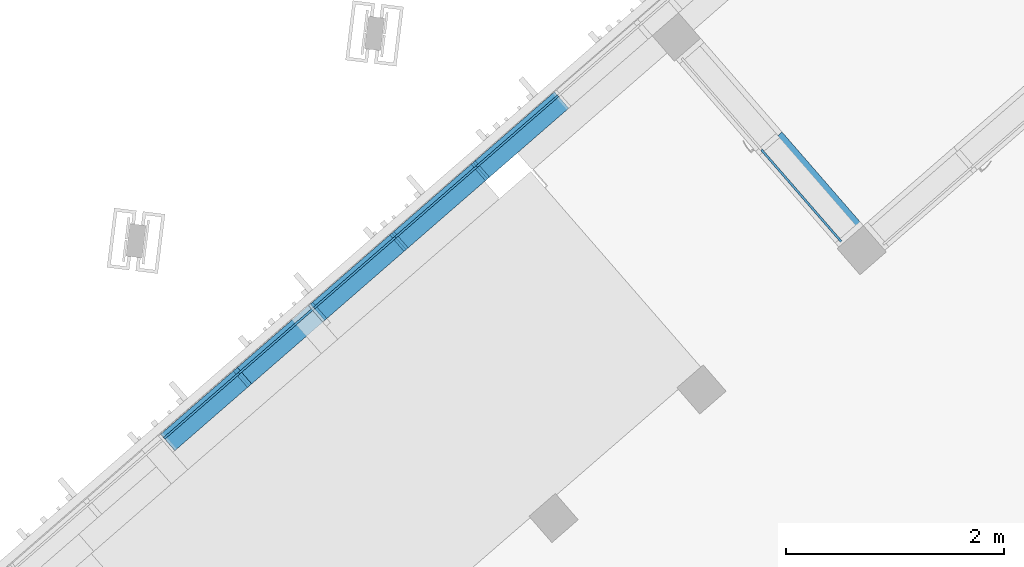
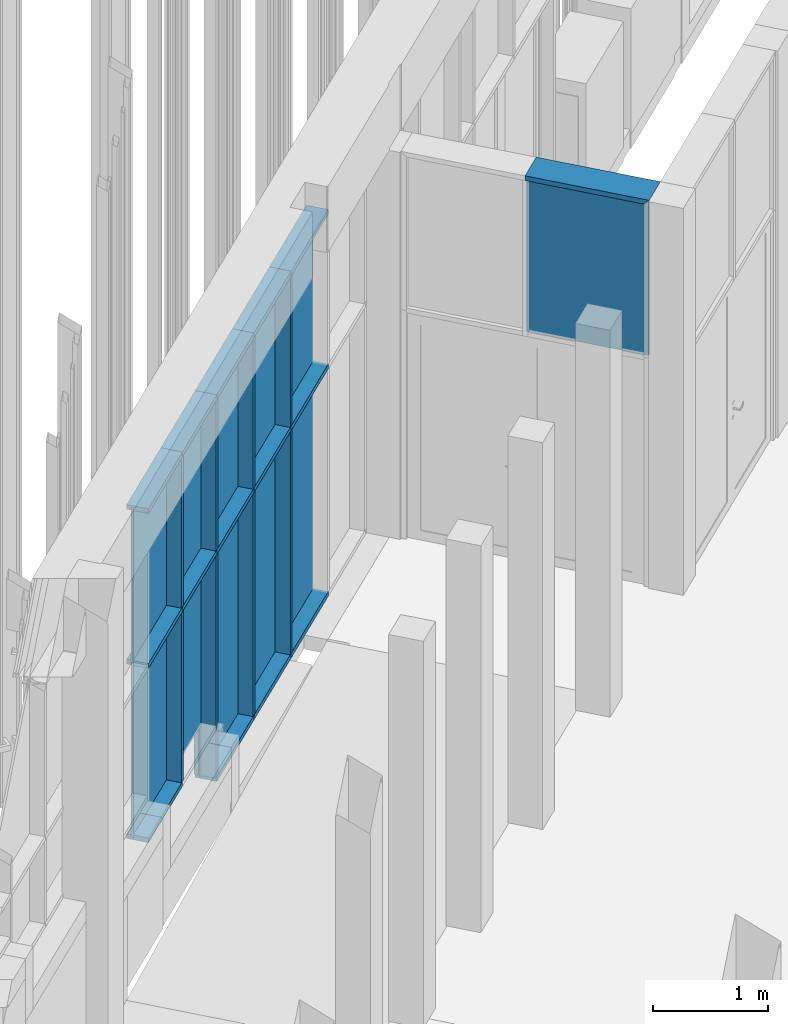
# One storey, part 42 of 390: 34 discrete accessories, 2 elements without a shape of their own.
"""IFC2X3 building model written with IfcOpenShell, lengths in millimetres."""

from ifc_helpers import new_model, entity, si_unit, converted_unit, derived_unit, money_unit, direction, frame, origin_with_axes, place, context, subcontext, project, spatial, polyline, outline, extrude, clip, halfspace, material, material_list, type_object, element, aggregate, save


model = new_model("IFC2X3")

# Units and contexts
model_context = context("Model", 3, precision=1e-05, world=origin_with_axes(), true_north=direction((0.0, 1.0)))
body_context = subcontext(model_context, "Body", "Model", "MODEL_VIEW")
ifc_project = project(units=[si_unit("LENGTHUNIT", "METRE", prefix="MILLI"), si_unit("AREAUNIT", "SQUARE_METRE"), si_unit("VOLUMEUNIT", "CUBIC_METRE"), converted_unit("PLANEANGLEUNIT", "DEGREE", entity("IfcPlaneAngleMeasure", 0.0174532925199), si_unit("PLANEANGLEUNIT", "RADIAN"), dimensions=[0, 0, 0, 0, 0, 0, 0]), si_unit("SOLIDANGLEUNIT", "STERADIAN"), money_unit("EUR"), converted_unit("TIMEUNIT", "Year", entity("IfcTimeMeasure", 31556926.0), si_unit("TIMEUNIT", "SECOND"), dimensions=[0, 0, 1, 0, 0, 0, 0]), si_unit("MASSUNIT", "GRAM", prefix="KILO"), si_unit("THERMODYNAMICTEMPERATUREUNIT", "DEGREE_CELSIUS"), si_unit("LUMINOUSINTENSITYUNIT", "LUMEN"), si_unit("ENERGYUNIT", "JOULE", prefix="MEGA"), derived_unit("THERMALCONDUCTANCEUNIT", [(si_unit("POWERUNIT", "WATT"), 1), (si_unit("LENGTHUNIT", "METRE"), -1), (si_unit("THERMODYNAMICTEMPERATUREUNIT", "KELVIN"), -1)]), derived_unit("SPECIFICHEATCAPACITYUNIT", [(si_unit("ENERGYUNIT", "JOULE"), 1), (si_unit("MASSUNIT", "GRAM", prefix="KILO"), -1), (si_unit("THERMODYNAMICTEMPERATUREUNIT", "KELVIN"), -1)]), derived_unit("MASSDENSITYUNIT", [(si_unit("MASSUNIT", "GRAM", prefix="KILO"), 1), (si_unit("VOLUMEUNIT", "CUBIC_METRE"), -1)])], contexts=[model_context])

# Site, building, storey
site_placement = place(None, origin_with_axes())
site = spatial("IfcSite", under=ifc_project, at=site_placement, Name="Site", CompositionType="ELEMENT")
building_placement = place(site_placement, origin_with_axes())
building = spatial("IfcBuilding", under=site, at=building_placement, Name="Building", CompositionType="ELEMENT")
storey_placement = place(building_placement, origin_with_axes())
storey = spatial("IfcBuildingStorey", under=building, at=storey_placement, Name="1 korrus", CompositionType="ELEMENT", Elevation=0.0)

# Curtain wall, discrete accessories
curtain_wall_type_1 = type_object("IfcCurtainWallType", Name="KS-19", PredefinedType="NOTDEFINED")
curtain_wall_1_placement = place(storey_placement, frame((133652.123893, 83883.7618175, -5.55524941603e-05), z_axis=(0.0, 0.0, 1.0), x_axis=(1.0, 0.0, 0.0)))
curtain_wall_1 = element("IfcCurtainWall", 1, at=curtain_wall_1_placement, inside=storey, type_object=curtain_wall_type_1, Name="Klaasfassaad")
ifc_material_1 = material(Name="Klaas")
discrete_accessory_type_1 = type_object("IfcDiscreteAccessoryType", Name="Distinct Panel 1120 x 1655 x 20")
discrete_accessory_1_placement = place(curtain_wall_1_placement, frame((373.953644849, -430.184462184, 3262.50000463), z_axis=(0.0, 0.0, 1.0), x_axis=(-0.65605902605, 0.754709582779, 0.0)))
discrete_accessory_1 = element("IfcDiscreteAccessory", 2, at=discrete_accessory_1_placement, type_object=discrete_accessory_type_1, material=ifc_material_1, Name="KS-19 klaaspakett", context=body_context, shape_type="SweptSolid", body=[
    extrude(outline(polyline([(-550.0000105, -817.499952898), (570.0, -817.499952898), (570.0, 837.499949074), (-550.0000105, 837.499949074), (-550.0000105, -817.499952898)])), frame((0.0, -10.0, 0.0), z_axis=(0.0, 1.0, 0.0), x_axis=(1.0, 0.0, 0.0)), (0.0, 0.0, 1.0), 20.0),
])
ifc_material_2 = material(Name="Aluminium MUST")
discrete_accessory_type_2 = type_object("IfcDiscreteAccessoryType", Name="50 x 300")
discrete_accessory_2_placement = place(curtain_wall_1_placement, frame((747.907289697, -860.368924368, 4099.9999537), z_axis=(-0.65605902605, 0.754709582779, 0.0), x_axis=(0.0, 0.0, -1.0)))
discrete_accessory_2 = element("IfcDiscreteAccessory", 3, at=discrete_accessory_2_placement, type_object=discrete_accessory_type_2, material=ifc_material_2, Name="KS-19 profiil", context=body_context, shape_type="Clipping", body=[
    clip(extrude(outline(polyline([(9.99999999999, 25.0), (-10.0, 25.0), (-10.0, 50.0), (-50.0, 50.0), (-50.0, 0.0), (250.0, 0.0), (250.0, 50.0), (9.99999999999, 50.0), (9.99999999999, 25.0)])), frame((0.0, 0.0, 0.0), z_axis=(0.0, 0.0, 1.0), x_axis=(0.0, -1.0, 0.0)), (0.0, 0.0, 1.0), 1140.0), halfspace(frame((0.0, 0.0, 0.0), z_axis=(-0.707106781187, 0.0, 0.707106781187), x_axis=(0.0, -1.0, 0.0)), True)),
])
aggregate(curtain_wall_1, [discrete_accessory_1, discrete_accessory_2])

curtain_wall_type_2 = type_object("IfcCurtainWallType", Name="KLF-16", PredefinedType="NOTDEFINED")
curtain_wall_2_placement = place(storey_placement, frame((129915.663376, 82755.7268841, -0.000187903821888), z_axis=(0.0, 0.0, 1.0), x_axis=(1.0, 0.0, 0.0)))
curtain_wall_2 = element("IfcCurtainWall", 4, at=curtain_wall_2_placement, inside=storey, type_object=curtain_wall_type_2, Name="Klaasfassaad")
discrete_accessory_type_3 = type_object("IfcDiscreteAccessoryType", Name="Distinct Panel 990 x 2415 x 20")
discrete_accessory_3_placement = place(curtain_wall_2_placement, frame((0.0, 0.0, 1217.50028814), z_axis=(0.0, 0.0, 1.0), x_axis=(0.754709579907, 0.656059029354, 0.0)))
discrete_accessory_3 = element("IfcDiscreteAccessory", 5, at=discrete_accessory_3_placement, type_object=discrete_accessory_type_3, material=ifc_material_1, Name="KLF-16 klaaspakett", context=body_context, shape_type="SweptSolid", body=[
    extrude(outline(polyline([(-494.999994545, -1217.49990137), (495.000015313, -1217.49990137), (495.000015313, 1197.49990618), (-494.999994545, 1197.49990618), (-494.999994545, -1217.49990137)])), frame((0.0, -10.0, 0.0), z_axis=(0.0, 1.0, 0.0), x_axis=(1.0, 0.0, 0.0)), (0.0, 0.0, 1.0), 20.0),
])
discrete_accessory_4_placement = place(curtain_wall_2_placement, frame((747.162484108, 649.49843906, 1217.50028814), z_axis=(0.0, 0.0, 1.0), x_axis=(0.754709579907, 0.656059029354, 0.0)))
discrete_accessory_4 = element("IfcDiscreteAccessory", 6, at=discrete_accessory_4_placement, type_object=discrete_accessory_type_3, material=ifc_material_1, Name="KLF-16 klaaspakett", context=body_context, shape_type="SweptSolid", body=[
    extrude(outline(polyline([(-494.999994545, -1217.49990137), (495.000015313, -1217.49990137), (495.000015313, 1197.49990618), (-494.999994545, 1197.49990618), (-494.999994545, -1217.49990137)])), frame((0.0, -9.99999999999, 0.0), z_axis=(0.0, 1.0, 0.0), x_axis=(1.0, 0.0, 0.0)), (0.0, 0.0, 1.0), 20.0),
])
discrete_accessory_5_placement = place(curtain_wall_2_placement, frame((1494.32496822, 1298.99687812, 1217.50022376), z_axis=(0.0, 0.0, 1.0), x_axis=(0.754709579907, 0.656059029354, 0.0)))
discrete_accessory_5 = element("IfcDiscreteAccessory", 7, at=discrete_accessory_5_placement, type_object=discrete_accessory_type_3, material=ifc_material_1, Name="KLF-16 klaaspakett", context=body_context, shape_type="SweptSolid", body=[
    extrude(outline(polyline([(-494.999994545, -1217.49996574), (495.000015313, -1217.49996574), (495.000015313, 1197.4998418), (-494.999994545, 1197.4998418), (-494.999994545, -1217.49996574)])), frame((0.0, -9.99999999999, 0.0), z_axis=(0.0, 1.0, 0.0), x_axis=(1.0, 0.0, 0.0)), (0.0, 0.0, 1.0), 20.0),
])
discrete_accessory_type_4 = type_object("IfcDiscreteAccessoryType", Name="Distinct Panel 915 x 2415 x 20")
discrete_accessory_6_placement = place(curtain_wall_2_placement, frame((-610.075308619, -530.330375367, 998.333591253), z_axis=(0.0, 0.0, 1.0), x_axis=(0.754709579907, 0.656059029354, 0.0)))
discrete_accessory_6 = element("IfcDiscreteAccessory", 8, at=discrete_accessory_6_placement, type_object=discrete_accessory_type_4, material=ifc_material_1, Name="KLF-16 klaaspakett", context=body_context, shape_type="SweptSolid", body=[
    extrude(outline(polyline([(-601.642265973, -1436.66659825), (313.357726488, -1436.66659825), (313.357726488, 978.333192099), (308.216777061, 978.333192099), (308.362857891, 418.333382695), (-601.642265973, 418.333382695), (-601.642265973, -1436.66659825)])), frame((0.0, -10.0, 0.0), z_axis=(0.0, 1.0, 0.0), x_axis=(1.0, 0.0, 0.0)), (0.0, 0.0, 1.0), 20.0),
])
discrete_accessory_type_5 = type_object("IfcDiscreteAccessoryType", Name="Distinct Panel 915 x 1645 x 20")
discrete_accessory_7_placement = place(curtain_wall_2_placement, frame((-718.860874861, -624.896225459, 3267.50003473), z_axis=(0.0, 0.0, 1.0), x_axis=(0.754709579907, 0.656059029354, 0.0)))
discrete_accessory_7 = element("IfcDiscreteAccessory", 9, at=discrete_accessory_7_placement, type_object=discrete_accessory_type_5, material=ifc_material_1, Name="KLF-16 klaaspakett", context=body_context, shape_type="SweptSolid", body=[
    extrude(outline(polyline([(-457.500010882, -812.499843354), (457.499999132, -812.499843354), (457.499999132, 832.499846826), (-457.500010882, 832.499846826), (-457.500010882, -812.499843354)])), frame((0.0, -9.99999999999, 0.0), z_axis=(0.0, 1.0, 0.0), x_axis=(1.0, 0.0, 0.0)), (0.0, 0.0, 1.0), 20.0),
])
discrete_accessory_type_6 = type_object("IfcDiscreteAccessoryType", Name="Distinct Panel 910 x 1855 x 20")
discrete_accessory_8_placement = place(curtain_wall_2_placement, frame((-1407.53336653, -1223.55008974, 1497.50019283), z_axis=(0.0, 0.0, 1.0), x_axis=(0.754709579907, 0.656059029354, 0.0)))
discrete_accessory_8 = element("IfcDiscreteAccessory", 10, at=discrete_accessory_8_placement, type_object=discrete_accessory_type_6, material=ifc_material_1, Name="KLF-16 klaaspakett", context=body_context, shape_type="SweptSolid", body=[
    extrude(outline(polyline([(-455.000011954, -937.499995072), (454.999994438, -937.499995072), (454.999994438, 917.500000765), (-455.000011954, 917.500000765), (-455.000011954, -937.499995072)])), frame((0.0, -10.0, 0.0), z_axis=(0.0, 1.0, 0.0), x_axis=(1.0, 0.0, 0.0)), (0.0, 0.0, 1.0), 20.0),
])
discrete_accessory_type_7 = type_object("IfcDiscreteAccessoryType", Name="Distinct Panel 990 x 1645 x 20")
discrete_accessory_9_placement = place(curtain_wall_2_placement, frame((1494.32496822, 1298.99687812, 3267.50003473), z_axis=(0.0, 0.0, 1.0), x_axis=(0.754709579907, 0.656059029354, 0.0)))
discrete_accessory_9 = element("IfcDiscreteAccessory", 11, at=discrete_accessory_9_placement, type_object=discrete_accessory_type_7, material=ifc_material_1, Name="KLF-16 klaaspakett", context=body_context, shape_type="SweptSolid", body=[
    extrude(outline(polyline([(-494.999999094, -812.499843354), (494.999999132, -812.499843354), (494.999999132, 832.499846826), (-494.999999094, 832.499846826), (-494.999999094, -812.499843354)])), frame((0.0, -9.99999999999, 0.0), z_axis=(0.0, 1.0, 0.0), x_axis=(1.0, 0.0, 0.0)), (0.0, 0.0, 1.0), 20.0),
])
discrete_accessory_10_placement = place(curtain_wall_2_placement, frame((747.162484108, 649.49843906, 3267.50003473), z_axis=(0.0, 0.0, 1.0), x_axis=(0.754709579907, 0.656059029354, 0.0)))
discrete_accessory_10 = element("IfcDiscreteAccessory", 12, at=discrete_accessory_10_placement, type_object=discrete_accessory_type_7, material=ifc_material_1, Name="KLF-16 klaaspakett", context=body_context, shape_type="SweptSolid", body=[
    extrude(outline(polyline([(-494.999999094, -812.499843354), (494.999999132, -812.499843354), (494.999999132, 832.499846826), (-494.999999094, 832.499846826), (-494.999999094, -812.499843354)])), frame((0.0, -9.99999999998, 0.0), z_axis=(0.0, 1.0, 0.0), x_axis=(1.0, 0.0, 0.0)), (0.0, 0.0, 1.0), 20.0),
])
discrete_accessory_11_placement = place(curtain_wall_2_placement, frame((0.0, 0.0, 3267.50003473), z_axis=(0.0, 0.0, 1.0), x_axis=(0.754709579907, 0.656059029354, 0.0)))
discrete_accessory_11 = element("IfcDiscreteAccessory", 13, at=discrete_accessory_11_placement, type_object=discrete_accessory_type_7, material=ifc_material_1, Name="KLF-16 klaaspakett", context=body_context, shape_type="SweptSolid", body=[
    extrude(outline(polyline([(-494.999999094, -812.499843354), (494.999999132, -812.499843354), (494.999999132, 832.499846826), (-494.999999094, 832.499846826), (-494.999999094, -812.499843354)])), frame((0.0, -10.0, 0.0), z_axis=(0.0, 1.0, 0.0), x_axis=(1.0, 0.0, 0.0)), (0.0, 0.0, 1.0), 20.0),
])
discrete_accessory_type_8 = type_object("IfcDiscreteAccessoryType", Name="Distinct Panel 910 x 1645 x 20")
discrete_accessory_12_placement = place(curtain_wall_2_placement, frame((-1407.53336653, -1223.55008974, 3267.50003473), z_axis=(0.0, 0.0, 1.0), x_axis=(0.754709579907, 0.656059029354, 0.0)))
discrete_accessory_12 = element("IfcDiscreteAccessory", 14, at=discrete_accessory_12_placement, type_object=discrete_accessory_type_8, material=ifc_material_1, Name="KLF-16 klaaspakett", context=body_context, shape_type="SweptSolid", body=[
    extrude(outline(polyline([(-455.000010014, -812.499843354), (454.999999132, -812.499843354), (454.999999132, 832.499846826), (-455.000010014, 832.499846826), (-455.000010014, -812.499843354)])), frame((0.0, -10.0, 0.0), z_axis=(0.0, 1.0, 0.0), x_axis=(1.0, 0.0, 0.0)), (0.0, 0.0, 1.0), 20.0),
])
ifc_material_list_1 = material_list([ifc_material_2, ifc_material_2])
discrete_accessory_type_9 = type_object("IfcDiscreteAccessoryType", Name="50 x 200")
discrete_accessory_13_placement = place(curtain_wall_2_placement, frame((-1064.14050767, -925.043231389, 560.00019776), z_axis=(0.0, 0.0, 1.0), x_axis=(0.754709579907, 0.656059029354, 0.0)))
discrete_accessory_13 = element("IfcDiscreteAccessory", 15, at=discrete_accessory_13_placement, type_object=discrete_accessory_type_9, material=ifc_material_list_1, Name="KLF-16 profiil", context=body_context, shape_type="SweptSolid", body=[
    extrude(outline(polyline([(117.276593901, -96.8049612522), (25.4283297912, 8.85437993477), (-12.3071492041, -23.9485715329), (79.5411149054, -129.60791272), (117.276593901, -96.8049612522)])), frame((0.0, 0.0, 50.0), z_axis=(0.0, 0.0, 1.0), x_axis=(0.754709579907, -0.656059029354, 0.0)), (0.0, 0.0, 1.0), 1799.99999014),
    extrude(outline(polyline([(-51.6706909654, 21.3340032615), (-25.4283297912, -8.85437993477), (12.3071492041, 23.9485715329), (-13.93521197, 54.1369547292), (-51.6706909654, 21.3340032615)])), frame((0.0, 0.0, 50.0), z_axis=(0.0, 0.0, 1.0), x_axis=(0.754709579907, -0.656059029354, 0.0)), (0.0, 0.0, 1.0), 1799.99999014),
])
discrete_accessory_14_placement = place(curtain_wall_2_placement, frame((1867.90621027, 1623.74609765, 2435.0001879), z_axis=(-0.754709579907, -0.656059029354, 0.0), x_axis=(0.0, 0.0, 1.0)))
discrete_accessory_14 = element("IfcDiscreteAccessory", 16, at=discrete_accessory_14_placement, type_object=discrete_accessory_type_9, material=ifc_material_list_1, Name="KLF-16 profiil", context=body_context, shape_type="SweptSolid", body=[
    extrude(outline(polyline([(-150.0, -25.0), (-10.0, -25.0), (-10.0, 25.0), (-150.0, 25.0), (-150.0, -25.0)])), frame((0.0, 0.0, 0.0), z_axis=(0.0, 0.0, 1.0), x_axis=(0.0, 1.0, 0.0)), (0.0, 0.0, 1.0), 990.0),
    extrude(outline(polyline([(50.0, 25.0), (9.99999999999, 25.0), (9.99999999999, -25.0), (50.0, -25.0), (50.0, 25.0)])), frame((0.0, 0.0, 0.0), z_axis=(0.0, 0.0, 1.0), x_axis=(0.0, 1.0, 0.0)), (0.0, 0.0, 1.0), 990.0),
])
discrete_accessory_15_placement = place(curtain_wall_2_placement, frame((1120.74372616, 974.24765859, 2435.0001879), z_axis=(-0.754709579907, -0.656059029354, 0.0), x_axis=(0.0, 0.0, 1.0)))
discrete_accessory_15 = element("IfcDiscreteAccessory", 17, at=discrete_accessory_15_placement, type_object=discrete_accessory_type_9, material=ifc_material_list_1, Name="KLF-16 profiil", context=body_context, shape_type="SweptSolid", body=[
    extrude(outline(polyline([(-150.0, -25.0), (-9.99999999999, -25.0), (-9.99999999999, 25.0), (-150.0, 25.0), (-150.0, -25.0)])), frame((0.0, 0.0, 0.0), z_axis=(0.0, 0.0, 1.0), x_axis=(0.0, 1.0, 0.0)), (0.0, 0.0, 1.0), 990.0),
    extrude(outline(polyline([(50.0, 25.0), (10.0, 25.0), (10.0, -25.0), (50.0, -25.0), (50.0, 25.0)])), frame((0.0, 0.0, 0.0), z_axis=(0.0, 0.0, 1.0), x_axis=(0.0, 1.0, 0.0)), (0.0, 0.0, 1.0), 990.0),
])
discrete_accessory_16_placement = place(curtain_wall_2_placement, frame((1120.74372616, 974.24765859, 0.000388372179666), z_axis=(0.0, 0.0, 1.0), x_axis=(0.754709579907, 0.656059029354, 0.0)))
discrete_accessory_16 = element("IfcDiscreteAccessory", 18, at=discrete_accessory_16_placement, type_object=discrete_accessory_type_9, material=ifc_material_list_1, Name="KLF-16 profiil", context=body_context, shape_type="SweptSolid", body=[
    extrude(outline(polyline([(117.276593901, -96.8049612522), (25.4283297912, 8.85437993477), (-12.3071492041, -23.9485715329), (79.5411149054, -129.60791272), (117.276593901, -96.8049612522)])), frame((0.0, 0.0, 50.0), z_axis=(0.0, 0.0, 1.0), x_axis=(0.754709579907, -0.656059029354, 0.0)), (0.0, 0.0, 1.0), 2359.99979953),
    extrude(outline(polyline([(-51.6706909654, 21.3340032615), (-25.4283297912, -8.85437993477), (12.3071492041, 23.9485715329), (-13.93521197, 54.1369547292), (-51.6706909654, 21.3340032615)])), frame((0.0, 0.0, 50.0), z_axis=(0.0, 0.0, 1.0), x_axis=(0.754709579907, -0.656059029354, 0.0)), (0.0, 0.0, 1.0), 2359.99979953),
])
discrete_accessory_17_placement = place(curtain_wall_2_placement, frame((373.581242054, 324.74921953, 2435.0001879), z_axis=(-0.754709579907, -0.656059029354, 0.0), x_axis=(0.0, 0.0, 1.0)))
discrete_accessory_17 = element("IfcDiscreteAccessory", 19, at=discrete_accessory_17_placement, type_object=discrete_accessory_type_9, material=ifc_material_list_1, Name="KLF-16 profiil", context=body_context, shape_type="SweptSolid", body=[
    extrude(outline(polyline([(-150.0, -25.0), (-10.0, -25.0), (-10.0, 25.0), (-150.0, 25.0), (-150.0, -25.0)])), frame((0.0, 0.0, 0.0), z_axis=(0.0, 0.0, 1.0), x_axis=(0.0, 1.0, 0.0)), (0.0, 0.0, 1.0), 990.0),
    extrude(outline(polyline([(50.0, 25.0), (10.0, 25.0), (10.0, -25.0), (50.0, -25.0), (50.0, 25.0)])), frame((0.0, 0.0, 0.0), z_axis=(0.0, 0.0, 1.0), x_axis=(0.0, 1.0, 0.0)), (0.0, 0.0, 1.0), 990.0),
])
discrete_accessory_18_placement = place(curtain_wall_2_placement, frame((373.581242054, 324.74921953, 0.000388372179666), z_axis=(0.0, 0.0, 1.0), x_axis=(0.754709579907, 0.656059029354, 0.0)))
discrete_accessory_18 = element("IfcDiscreteAccessory", 20, at=discrete_accessory_18_placement, type_object=discrete_accessory_type_9, material=ifc_material_list_1, Name="KLF-16 profiil", context=body_context, shape_type="SweptSolid", body=[
    extrude(outline(polyline([(117.276593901, -96.8049612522), (25.4283297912, 8.85437993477), (-12.3071492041, -23.9485715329), (79.5411149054, -129.60791272), (117.276593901, -96.8049612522)])), frame((0.0, 0.0, 50.0), z_axis=(0.0, 0.0, 1.0), x_axis=(0.754709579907, -0.656059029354, 0.0)), (0.0, 0.0, 1.0), 2359.99979953),
    extrude(outline(polyline([(-51.6706909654, 21.3340032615), (-25.4283297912, -8.85437993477), (12.3071492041, 23.9485715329), (-13.93521197, 54.1369547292), (-51.6706909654, 21.3340032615)])), frame((0.0, 0.0, 50.0), z_axis=(0.0, 0.0, 1.0), x_axis=(0.754709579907, -0.656059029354, 0.0)), (0.0, 0.0, 1.0), 2359.99979953),
])
discrete_accessory_19_placement = place(curtain_wall_2_placement, frame((-373.581242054, -324.74921953, 2435.0001879), z_axis=(-0.754709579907, -0.656059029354, 0.0), x_axis=(0.0, 0.0, 1.0)))
discrete_accessory_19 = element("IfcDiscreteAccessory", 21, at=discrete_accessory_19_placement, type_object=discrete_accessory_type_9, material=ifc_material_list_1, Name="KLF-16 profiil", context=body_context, shape_type="SweptSolid", body=[
    extrude(outline(polyline([(-150.0, -25.0), (-10.0, -25.0), (-10.0, 25.0), (-150.0, 25.0), (-150.0, -25.0)])), frame((0.0, 0.0, 0.0), z_axis=(0.0, 0.0, 1.0), x_axis=(0.0, 1.0, 0.0)), (0.0, 0.0, 1.0), 915.0),
    extrude(outline(polyline([(50.0, 25.0), (10.0, 25.0), (10.0, -25.0), (50.0, -25.0), (50.0, 25.0)])), frame((0.0, 0.0, 0.0), z_axis=(0.0, 0.0, 1.0), x_axis=(0.0, 1.0, 0.0)), (0.0, 0.0, 1.0), 915.0),
])
discrete_accessory_20_placement = place(curtain_wall_2_placement, frame((-373.581242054, -324.74921953, 0.000388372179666), z_axis=(0.0, 0.0, 1.0), x_axis=(0.754709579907, 0.656059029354, 0.0)))
discrete_accessory_20 = element("IfcDiscreteAccessory", 22, at=discrete_accessory_20_placement, type_object=discrete_accessory_type_9, material=ifc_material_list_1, Name="KLF-16 profiil", context=body_context, shape_type="SweptSolid", body=[
    extrude(outline(polyline([(117.276593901, -96.8049612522), (25.4283297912, 8.85437993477), (-12.3071492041, -23.9485715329), (79.5411149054, -129.60791272), (117.276593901, -96.8049612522)])), frame((0.0, 0.0, 50.0000002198), z_axis=(0.0, 0.0, 1.0), x_axis=(0.754709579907, -0.656059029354, 0.0)), (0.0, 0.0, 1.0), 2359.99979931),
    extrude(outline(polyline([(-51.6706909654, 21.3340032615), (-25.4283297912, -8.85437993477), (12.3071492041, 23.9485715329), (-13.93521197, 54.1369547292), (-51.6706909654, 21.3340032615)])), frame((0.0, 0.0, 49.999998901), z_axis=(0.0, 0.0, 1.0), x_axis=(0.754709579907, -0.656059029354, 0.0)), (0.0, 0.0, 1.0), 2359.99980063),
])
discrete_accessory_21_placement = place(curtain_wall_2_placement, frame((-1064.14050767, -925.043231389, 2435.0001879), z_axis=(-0.754709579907, -0.656059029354, 0.0), x_axis=(0.0, 0.0, 1.0)))
discrete_accessory_21 = element("IfcDiscreteAccessory", 23, at=discrete_accessory_21_placement, type_object=discrete_accessory_type_9, material=ifc_material_list_1, Name="KLF-16 profiil", context=body_context, shape_type="SweptSolid", body=[
    extrude(outline(polyline([(-150.0, -25.0), (-10.0, -25.0), (-10.0, 25.0), (-150.0, 25.0), (-150.0, -25.0)])), frame((0.0, 0.0, 0.0), z_axis=(0.0, 0.0, 1.0), x_axis=(0.0, 1.0, 0.0)), (0.0, 0.0, 1.0), 910.0),
    extrude(outline(polyline([(50.0, 25.0), (9.99999999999, 25.0), (9.99999999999, -25.0), (50.0, -25.0), (50.0, 25.0)])), frame((0.0, 0.0, 0.0), z_axis=(0.0, 0.0, 1.0), x_axis=(0.0, 1.0, 0.0)), (0.0, 0.0, 1.0), 910.0),
])
ifc_material_list_2 = material_list([ifc_material_2, ifc_material_2, ifc_material_2])
discrete_accessory_22_placement = place(curtain_wall_2_placement, frame((373.581242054, 324.74921953, 0.000388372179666), z_axis=(-0.754709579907, -0.656059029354, 0.0), x_axis=(0.0, 0.0, 1.0)))
discrete_accessory_22 = element("IfcDiscreteAccessory", 24, at=discrete_accessory_22_placement, type_object=discrete_accessory_type_9, material=ifc_material_list_2, Name="KLF-16 profiil", context=body_context, shape_type="SweptSolid", body=[
    extrude(outline(polyline([(-9.99999999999, -25.0), (10.0, -25.0), (10.0, 0.0), (-9.99999999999, 0.0), (-9.99999999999, -25.0)])), frame((0.0, 0.0, 0.0), z_axis=(0.0, 0.0, 1.0), x_axis=(0.0, 1.0, 0.0)), (0.0, 0.0, 1.0), 990.000000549),
    extrude(outline(polyline([(-150.0, -50.0), (-9.99999999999, -50.0), (-9.99999999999, 0.0), (-150.0, 0.0), (-150.0, -50.0)])), frame((0.0, 0.0, 0.0), z_axis=(0.0, 0.0, 1.0), x_axis=(0.0, 1.0, 0.0)), (0.0, 0.0, 1.0), 990.00000055),
    extrude(outline(polyline([(50.0, 0.0), (10.0, 0.0), (10.0, -50.0), (50.0, -50.0), (50.0, 0.0)])), frame((0.0, 0.0, 0.0), z_axis=(0.0, 0.0, 1.0), x_axis=(0.0, 1.0, 0.0)), (0.0, 0.0, 1.0), 990.00000055),
])
discrete_accessory_23_placement = place(curtain_wall_2_placement, frame((-1064.14050767, -925.043231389, 560.00019776), z_axis=(-0.754709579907, -0.656059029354, 0.0), x_axis=(0.0, 0.0, 1.0)))
discrete_accessory_23 = element("IfcDiscreteAccessory", 25, at=discrete_accessory_23_placement, type_object=discrete_accessory_type_9, material=ifc_material_list_2, Name="KLF-16 profiil", context=body_context, shape_type="SweptSolid", body=[
    extrude(outline(polyline([(-10.0, -25.0), (10.0, -25.0), (10.0, 0.0), (-10.0, 0.0), (-10.0, -25.0)])), frame((0.0, 0.0, 0.0), z_axis=(0.0, 0.0, 1.0), x_axis=(0.0, 1.0, 0.0)), (0.0, 0.0, 1.0), 910.0),
    extrude(outline(polyline([(-150.0, -50.0), (-10.0, -50.0), (-10.0, 0.0), (-150.0, 0.0), (-150.0, -50.0)])), frame((0.0, 0.0, 0.0), z_axis=(0.0, 0.0, 1.0), x_axis=(0.0, 1.0, 0.0)), (0.0, 0.0, 1.0), 910.0),
    extrude(outline(polyline([(50.0, 0.0), (10.0, 0.0), (10.0, -50.0), (50.0, -50.0), (50.0, 0.0)])), frame((0.0, 0.0, 0.0), z_axis=(0.0, 0.0, 1.0), x_axis=(0.0, 1.0, 0.0)), (0.0, 0.0, 1.0), 910.0),
])
discrete_accessory_24_placement = place(curtain_wall_2_placement, frame((1867.90621027, 1623.74609765, 0.000130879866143), z_axis=(-0.754709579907, -0.656059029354, 2.60093245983e-07), x_axis=(1.96294864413e-07, 1.70636522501e-07, 1.0)))
discrete_accessory_24 = element("IfcDiscreteAccessory", 26, at=discrete_accessory_24_placement, type_object=discrete_accessory_type_9, material=ifc_material_list_2, Name="KLF-16 profiil", context=body_context, shape_type="SweptSolid", body=[
    extrude(outline(polyline([(-10.0, -25.0), (9.99999999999, -25.0), (9.99999999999, 0.0), (-10.0, 0.0), (-10.0, -25.0)])), frame((0.0, 0.0, -6.5023471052e-06), z_axis=(0.0, 0.0, 1.0), x_axis=(0.0, 1.0, 0.0)), (0.0, 0.0, 1.0), 990.000013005),
    extrude(outline(polyline([(-150.0, -50.0), (-10.0, -50.0), (-10.0, 0.0), (-150.0, 0.0), (-150.0, -50.0)])), frame((0.0, 0.0, -6.5023471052e-06), z_axis=(0.0, 0.0, 1.0), x_axis=(0.0, 1.0, 0.0)), (0.0, 0.0, 1.0), 990.000013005),
    extrude(outline(polyline([(50.0, 0.0), (9.99999999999, 0.0), (9.99999999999, -50.0), (50.0, -50.0), (50.0, 0.0)])), frame((0.0, 0.0, -6.5023471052e-06), z_axis=(0.0, 0.0, 1.0), x_axis=(0.0, 1.0, 0.0)), (0.0, 0.0, 1.0), 990.000013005),
])
discrete_accessory_25_placement = place(curtain_wall_2_placement, frame((1120.74372616, 974.24765859, 0.000388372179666), z_axis=(-0.754709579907, -0.656059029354, 0.0), x_axis=(0.0, 0.0, 1.0)))
discrete_accessory_25 = element("IfcDiscreteAccessory", 27, at=discrete_accessory_25_placement, type_object=discrete_accessory_type_9, material=ifc_material_list_2, Name="KLF-16 profiil", context=body_context, shape_type="SweptSolid", body=[
    extrude(outline(polyline([(-9.99999999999, -25.0), (10.0, -25.0), (10.0, 0.0), (-9.99999999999, 0.0), (-9.99999999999, -25.0)])), frame((0.0, 0.0, -6.5023471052e-06), z_axis=(0.0, 0.0, 1.0), x_axis=(0.0, 1.0, 0.0)), (0.0, 0.0, 1.0), 990.000006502),
    extrude(outline(polyline([(-150.0, -50.0), (-9.99999999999, -50.0), (-9.99999999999, 0.0), (-150.0, 0.0), (-150.0, -50.0)])), frame((0.0, 0.0, -6.5023471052e-06), z_axis=(0.0, 0.0, 1.0), x_axis=(0.0, 1.0, 0.0)), (0.0, 0.0, 1.0), 990.000006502),
    extrude(outline(polyline([(50.0, 0.0), (10.0, 0.0), (10.0, -50.0), (50.0, -50.0), (50.0, 0.0)])), frame((0.0, 0.0, -6.5023471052e-06), z_axis=(0.0, 0.0, 1.0), x_axis=(0.0, 1.0, 0.0)), (0.0, 0.0, 1.0), 990.000006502),
])
discrete_accessory_26_placement = place(curtain_wall_2_placement, frame((-373.581242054, -324.74921953, 4099.99988156), z_axis=(0.754709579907, 0.656059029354, 0.0), x_axis=(0.0, 0.0, -1.0)))
discrete_accessory_26 = element("IfcDiscreteAccessory", 28, at=discrete_accessory_26_placement, type_object=discrete_accessory_type_9, material=ifc_material_list_2, Name="KLF-16 profiil", context=body_context, shape_type="SweptSolid", body=[
    extrude(outline(polyline([(10.0, 25.0), (-10.0, 25.0), (-10.0, 0.0), (10.0, 0.0), (10.0, 25.0)])), frame((0.0, 0.0, 0.0), z_axis=(0.0, 0.0, 1.0), x_axis=(0.0, -1.0, 0.0)), (0.0, 0.0, 1.0), 990.0),
    extrude(outline(polyline([(150.0, 50.0), (10.0, 50.0), (10.0, 0.0), (150.0, 0.0), (150.0, 50.0)])), frame((0.0, 0.0, 0.0), z_axis=(0.0, 0.0, 1.0), x_axis=(0.0, -1.0, 0.0)), (0.0, 0.0, 1.0), 990.0),
    extrude(outline(polyline([(-50.0, 0.0), (-10.0, 0.0), (-10.0, 50.0), (-50.0, 50.0), (-50.0, 0.0)])), frame((0.0, 0.0, 0.0), z_axis=(0.0, 0.0, 1.0), x_axis=(0.0, -1.0, 0.0)), (0.0, 0.0, 1.0), 990.0),
])
discrete_accessory_27_placement = place(curtain_wall_2_placement, frame((-373.581242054, -324.74921953, 2435.0001879), z_axis=(0.0, 0.0, 1.0), x_axis=(0.754709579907, 0.656059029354, 0.0)))
discrete_accessory_27 = element("IfcDiscreteAccessory", 29, at=discrete_accessory_27_placement, type_object=discrete_accessory_type_9, material=ifc_material_list_1, Name="KLF-16 profiil", context=body_context, shape_type="SweptSolid", body=[
    extrude(outline(polyline([(117.276593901, -96.8049612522), (25.4283297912, 8.85437993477), (-12.3071492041, -23.9485715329), (79.5411149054, -129.60791272), (117.276593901, -96.8049612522)])), frame((0.0, 0.0, 25.0), z_axis=(0.0, 0.0, 1.0), x_axis=(0.754709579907, -0.656059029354, 0.0)), (0.0, 0.0, 1.0), 1589.99969365),
    extrude(outline(polyline([(-51.6706909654, 21.3340032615), (-25.4283297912, -8.85437993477), (12.3071492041, 23.9485715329), (-13.93521197, 54.1369547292), (-51.6706909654, 21.3340032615)])), frame((0.0, 0.0, 25.0), z_axis=(0.0, 0.0, 1.0), x_axis=(0.754709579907, -0.656059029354, 0.0)), (0.0, 0.0, 1.0), 1589.99969365),
])
discrete_accessory_28_placement = place(curtain_wall_2_placement, frame((-1064.14050767, -925.043231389, 4099.99988156), z_axis=(0.754709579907, 0.656059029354, 0.0), x_axis=(0.0, 0.0, -1.0)))
discrete_accessory_28 = element("IfcDiscreteAccessory", 30, at=discrete_accessory_28_placement, type_object=discrete_accessory_type_9, material=ifc_material_list_2, Name="KLF-16 profiil", context=body_context, shape_type="SweptSolid", body=[
    extrude(outline(polyline([(9.99999999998, 25.0), (-10.0, 25.0), (-10.0, 0.0), (9.99999999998, 0.0), (9.99999999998, 25.0)])), frame((0.0, 0.0, 0.0), z_axis=(0.0, 0.0, 1.0), x_axis=(0.0, -1.0, 0.0)), (0.0, 0.0, 1.0), 915.0),
    extrude(outline(polyline([(150.0, 50.0), (9.99999999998, 50.0), (9.99999999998, 0.0), (150.0, 0.0), (150.0, 50.0)])), frame((0.0, 0.0, 0.0), z_axis=(0.0, 0.0, 1.0), x_axis=(0.0, -1.0, 0.0)), (0.0, 0.0, 1.0), 915.0),
    extrude(outline(polyline([(-50.0, 0.0), (-10.0, 0.0), (-10.0, 50.0), (-50.0, 50.0), (-50.0, 0.0)])), frame((0.0, 0.0, 0.0), z_axis=(0.0, 0.0, 1.0), x_axis=(0.0, -1.0, 0.0)), (0.0, 0.0, 1.0), 915.0),
])
discrete_accessory_29_placement = place(curtain_wall_2_placement, frame((-1064.14050767, -925.043231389, 2435.0001879), z_axis=(0.0, 0.0, 1.0), x_axis=(0.754709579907, 0.656059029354, 0.0)))
discrete_accessory_29 = element("IfcDiscreteAccessory", 31, at=discrete_accessory_29_placement, type_object=discrete_accessory_type_9, material=ifc_material_list_1, Name="KLF-16 profiil", context=body_context, shape_type="SweptSolid", body=[
    extrude(outline(polyline([(117.276593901, -96.8049612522), (25.4283297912, 8.85437993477), (-12.3071492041, -23.9485715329), (79.5411149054, -129.60791272), (117.276593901, -96.8049612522)])), frame((0.0, 0.0, 25.0), z_axis=(0.0, 0.0, 1.0), x_axis=(0.754709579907, -0.656059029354, 0.0)), (0.0, 0.0, 1.0), 1589.99969365),
    extrude(outline(polyline([(-51.6706909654, 21.3340032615), (-25.4283297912, -8.85437993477), (12.3071492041, 23.9485715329), (-13.93521197, 54.1369547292), (-51.6706909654, 21.3340032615)])), frame((0.0, 0.0, 25.0), z_axis=(0.0, 0.0, 1.0), x_axis=(0.754709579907, -0.656059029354, 0.0)), (0.0, 0.0, 1.0), 1589.99969365),
])
discrete_accessory_30_placement = place(curtain_wall_2_placement, frame((-1750.92622538, -1522.0569481, 4099.99988156), z_axis=(0.754709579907, 0.656059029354, 0.0), x_axis=(0.0, 0.0, -1.0)))
discrete_accessory_30 = element("IfcDiscreteAccessory", 32, at=discrete_accessory_30_placement, type_object=discrete_accessory_type_9, material=ifc_material_list_2, Name="KLF-16 profiil", context=body_context, shape_type="SweptSolid", body=[
    extrude(outline(polyline([(9.99999999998, 25.0), (-10.0, 25.0), (-10.0, 0.0), (9.99999999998, 0.0), (9.99999999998, 25.0)])), frame((0.0, 0.0, 0.0), z_axis=(0.0, 0.0, 1.0), x_axis=(0.0, -1.0, 0.0)), (0.0, 0.0, 1.0), 910.0),
    extrude(outline(polyline([(150.0, 50.0), (9.99999999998, 50.0), (9.99999999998, 0.0), (150.0, 0.0), (150.0, 50.0)])), frame((0.0, 0.0, 0.0), z_axis=(0.0, 0.0, 1.0), x_axis=(0.0, -1.0, 0.0)), (0.0, 0.0, 1.0), 910.0),
    extrude(outline(polyline([(-50.0, 0.0), (-10.0, 0.0), (-10.0, 50.0), (-50.0, 50.0), (-50.0, 0.0)])), frame((0.0, 0.0, 0.0), z_axis=(0.0, 0.0, 1.0), x_axis=(0.0, -1.0, 0.0)), (0.0, 0.0, 1.0), 910.0),
])
discrete_accessory_31_placement = place(curtain_wall_2_placement, frame((1120.74372616, 974.24765859, 4099.99988156), z_axis=(0.754709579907, 0.656059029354, 0.0), x_axis=(0.0, 0.0, -1.0)))
discrete_accessory_31 = element("IfcDiscreteAccessory", 33, at=discrete_accessory_31_placement, type_object=discrete_accessory_type_9, material=ifc_material_list_2, Name="KLF-16 profiil", context=body_context, shape_type="SweptSolid", body=[
    extrude(outline(polyline([(10.0, 25.0), (-10.0, 25.0), (-10.0, 0.0), (10.0, 0.0), (10.0, 25.0)])), frame((0.0, 0.0, 0.0), z_axis=(0.0, 0.0, 1.0), x_axis=(0.0, -1.0, 0.0)), (0.0, 0.0, 1.0), 990.0),
    extrude(outline(polyline([(150.0, 50.0), (10.0, 50.0), (10.0, 0.0), (150.0, 0.0), (150.0, 50.0)])), frame((0.0, 0.0, 0.0), z_axis=(0.0, 0.0, 1.0), x_axis=(0.0, -1.0, 0.0)), (0.0, 0.0, 1.0), 990.0),
    extrude(outline(polyline([(-50.0, 0.0), (-10.0, 0.0), (-10.0, 50.0), (-50.0, 50.0), (-50.0, 0.0)])), frame((0.0, 0.0, 0.0), z_axis=(0.0, 0.0, 1.0), x_axis=(0.0, -1.0, 0.0)), (0.0, 0.0, 1.0), 990.0),
])
discrete_accessory_32_placement = place(curtain_wall_2_placement, frame((1120.74372616, 974.24765859, 2435.0001879), z_axis=(0.0, 0.0, 1.0), x_axis=(0.754709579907, 0.656059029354, 0.0)))
discrete_accessory_32 = element("IfcDiscreteAccessory", 34, at=discrete_accessory_32_placement, type_object=discrete_accessory_type_9, material=ifc_material_list_1, Name="KLF-16 profiil", context=body_context, shape_type="SweptSolid", body=[
    extrude(outline(polyline([(117.276593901, -96.8049612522), (25.4283297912, 8.85437993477), (-12.3071492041, -23.9485715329), (79.5411149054, -129.60791272), (117.276593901, -96.8049612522)])), frame((0.0, 0.0, 25.0), z_axis=(0.0, 0.0, 1.0), x_axis=(0.754709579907, -0.656059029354, 0.0)), (0.0, 0.0, 1.0), 1589.99969365),
    extrude(outline(polyline([(-51.6706909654, 21.3340032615), (-25.4283297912, -8.85437993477), (12.3071492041, 23.9485715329), (-13.93521197, 54.1369547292), (-51.6706909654, 21.3340032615)])), frame((0.0, 0.0, 25.0), z_axis=(0.0, 0.0, 1.0), x_axis=(0.754709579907, -0.656059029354, 0.0)), (0.0, 0.0, 1.0), 1589.99969365),
])
discrete_accessory_33_placement = place(curtain_wall_2_placement, frame((373.581242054, 324.74921953, 4099.99988156), z_axis=(0.754709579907, 0.656059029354, 0.0), x_axis=(0.0, 0.0, -1.0)))
discrete_accessory_33 = element("IfcDiscreteAccessory", 35, at=discrete_accessory_33_placement, type_object=discrete_accessory_type_9, material=ifc_material_list_2, Name="KLF-16 profiil", context=body_context, shape_type="SweptSolid", body=[
    extrude(outline(polyline([(10.0, 25.0), (-9.99999999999, 25.0), (-9.99999999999, 0.0), (10.0, 0.0), (10.0, 25.0)])), frame((0.0, 0.0, 0.0), z_axis=(0.0, 0.0, 1.0), x_axis=(0.0, -1.0, 0.0)), (0.0, 0.0, 1.0), 990.0),
    extrude(outline(polyline([(150.0, 50.0), (10.0, 50.0), (10.0, 0.0), (150.0, 0.0), (150.0, 50.0)])), frame((0.0, 0.0, 0.0), z_axis=(0.0, 0.0, 1.0), x_axis=(0.0, -1.0, 0.0)), (0.0, 0.0, 1.0), 990.0),
    extrude(outline(polyline([(-50.0, 0.0), (-9.99999999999, 0.0), (-9.99999999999, 50.0), (-50.0, 50.0), (-50.0, 0.0)])), frame((0.0, 0.0, 0.0), z_axis=(0.0, 0.0, 1.0), x_axis=(0.0, -1.0, 0.0)), (0.0, 0.0, 1.0), 990.0),
])
discrete_accessory_34_placement = place(curtain_wall_2_placement, frame((373.581242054, 324.74921953, 2435.0001879), z_axis=(0.0, 0.0, 1.0), x_axis=(0.754709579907, 0.656059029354, 0.0)))
discrete_accessory_34 = element("IfcDiscreteAccessory", 36, at=discrete_accessory_34_placement, type_object=discrete_accessory_type_9, material=ifc_material_list_1, Name="KLF-16 profiil", context=body_context, shape_type="SweptSolid", body=[
    extrude(outline(polyline([(117.276593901, -96.8049612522), (25.4283297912, 8.85437993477), (-12.3071492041, -23.9485715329), (79.5411149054, -129.60791272), (117.276593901, -96.8049612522)])), frame((0.0, 0.0, 25.0), z_axis=(0.0, 0.0, 1.0), x_axis=(0.754709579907, -0.656059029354, 0.0)), (0.0, 0.0, 1.0), 1589.99969365),
    extrude(outline(polyline([(-51.6706909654, 21.3340032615), (-25.4283297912, -8.85437993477), (12.3071492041, 23.9485715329), (-13.93521197, 54.1369547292), (-51.6706909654, 21.3340032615)])), frame((0.0, 0.0, 25.0), z_axis=(0.0, 0.0, 1.0), x_axis=(0.754709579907, -0.656059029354, 0.0)), (0.0, 0.0, 1.0), 1589.99969365),
])
aggregate(curtain_wall_2, [discrete_accessory_3, discrete_accessory_4, discrete_accessory_6, discrete_accessory_8, discrete_accessory_5, discrete_accessory_9, discrete_accessory_10, discrete_accessory_11, discrete_accessory_7, discrete_accessory_12, discrete_accessory_13, discrete_accessory_14, discrete_accessory_15, discrete_accessory_16, discrete_accessory_17, discrete_accessory_18, discrete_accessory_19, discrete_accessory_20, discrete_accessory_21, discrete_accessory_22, discrete_accessory_23, discrete_accessory_24, discrete_accessory_25, discrete_accessory_26, discrete_accessory_27, discrete_accessory_28, discrete_accessory_29, discrete_accessory_30, discrete_accessory_31, discrete_accessory_32, discrete_accessory_33, discrete_accessory_34])

save(model, "model.ifc")
